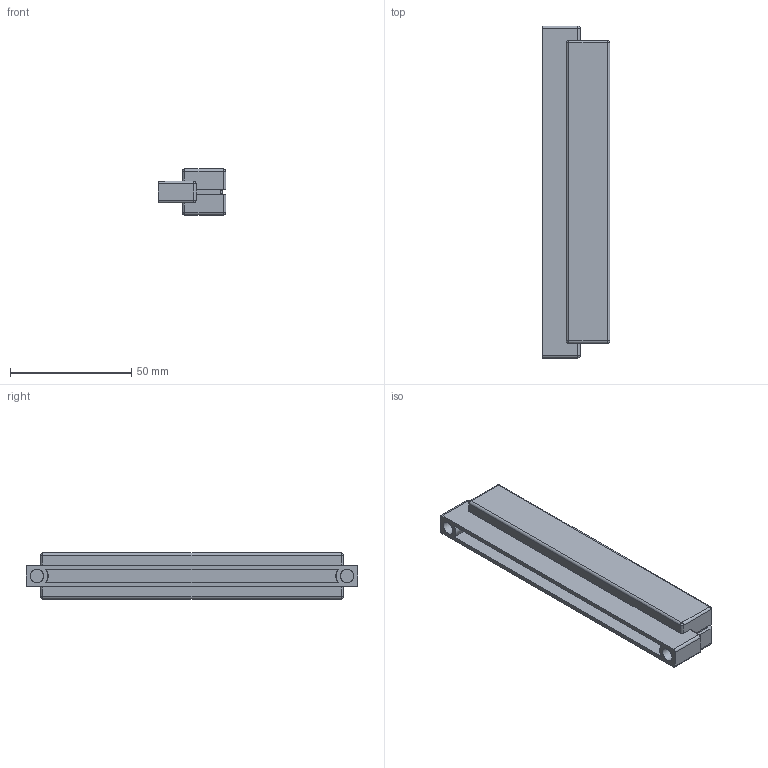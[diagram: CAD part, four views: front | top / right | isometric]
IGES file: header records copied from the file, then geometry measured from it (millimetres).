
Start section: C
Global section: file name: 8065-137.igs; native system: By Siemens PLM Incorporated; preprocessor: XPlus GENERIC/IGES 16.0.42; author: Author; organization: Title; date: 20231128.130311; units: millimetre
Bounding box: 28 x 137 x 19 mm (x, y, z)
Surface area: 29749.7 mm2 (no closed solid volume)
Topology: 0 solids, 0 shells, 137 faces, 712 edges, 700 vertices
Faces by surface type: bspline 137
